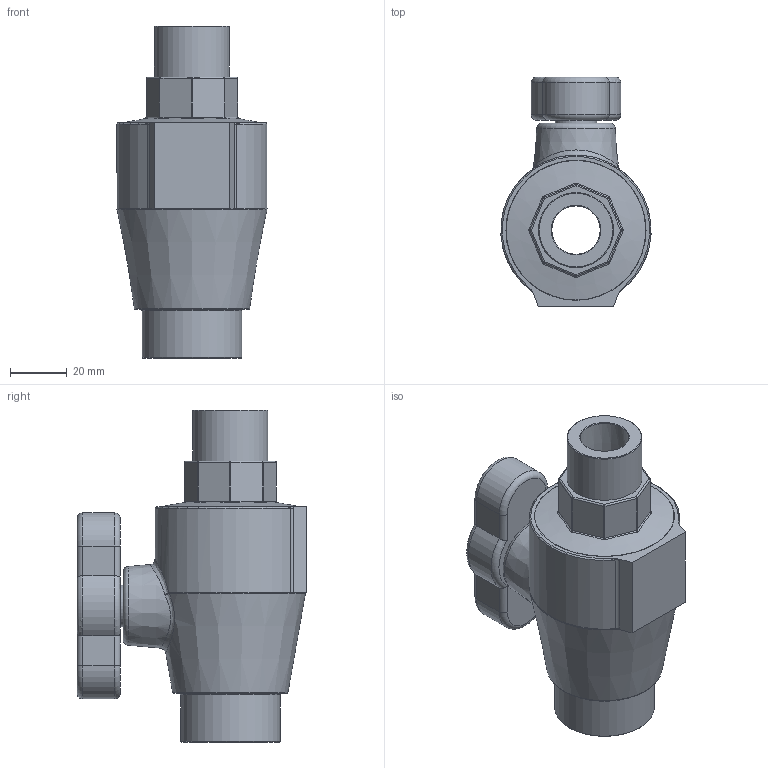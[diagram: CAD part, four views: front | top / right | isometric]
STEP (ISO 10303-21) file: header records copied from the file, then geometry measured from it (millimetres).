
FILE_DESCRIPTION(/* description */ ('PA Ball Valve Female 3/4'''' x Male 3/4'''''),/* implementation_level */ '2;1');
FILE_NAME(/* name */ 'C:\Dropbox\99-16-3568-Processing\S1\0370302\03703020S00007_03703020SF0007.stp',/* time_stamp */ '2022-04-18T17:28:11+03:00',/* author */ ('Lenora'),/* organization */ (''),/* preprocessor_version */ 'ST-DEVELOPER v17.2',/* originating_system */ 'Autodesk Inventor 2019',/* authorisation */ '');
FILE_SCHEMA (('AUTOMOTIVE_DESIGN { 1 0 10303 214 3 1 1 }'));
Length unit declared in the file: millimetre
Products named in the file (1): 03703020S00007_03703020SF0007
Bounding box: 52.88 x 81 x 117 mm (x, y, z)
Volume: 164104.6 mm3; surface area: 31629.6 mm2
Topology: 1 solids, 1 shells, 117 faces, 275 edges, 164 vertices
Faces by surface type: cylinder 36, bspline 26, plane 25, torus 14, cone 8, sphere 8
Full cylindrical faces by diameter (mm): 14.625 x1, 20 x1, 24.117 x1, 26.441 x1, 35.1 x1
Entity records: 4400 total; most frequent: CARTESIAN_POINT 1799, ORIENTED_EDGE 546, DIRECTION 517, EDGE_CURVE 273, AXIS2_PLACEMENT_3D 218, VERTEX_POINT 164, CIRCLE 126, EDGE_LOOP 125
